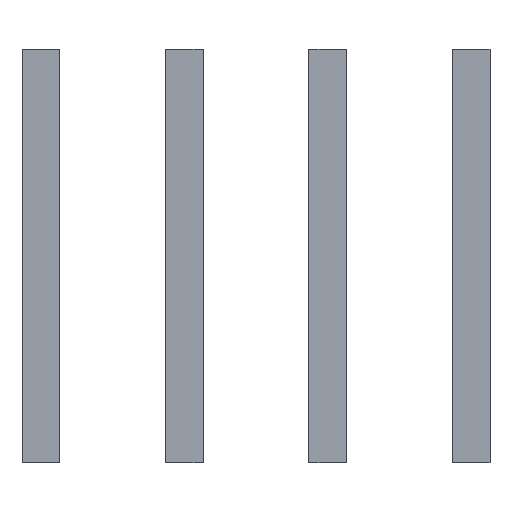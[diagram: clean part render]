
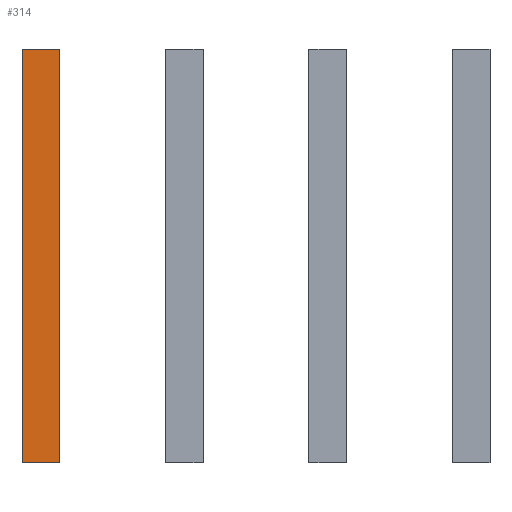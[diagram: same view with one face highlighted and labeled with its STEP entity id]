
A CAD part, front view. The second image highlights one B-rep face of the part: STEP entity #314.
In plain terms, the highlighted planar face has unit normal (0, -1, 0).
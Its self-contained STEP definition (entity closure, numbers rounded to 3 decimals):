
#51 = EDGE_CURVE('',#52,#54,#56,.T.);
#52 = VERTEX_POINT('',#53);
#53 = CARTESIAN_POINT('',(-27.1,15.,-189.5));
#54 = VERTEX_POINT('',#55);
#55 = CARTESIAN_POINT('',(-23.3,15.,-189.5));
#56 = SURFACE_CURVE('',#57,(#61,#73),.PCURVE_S1.);
#57 = LINE('',#58,#59);
#58 = CARTESIAN_POINT('',(-27.1,15.,-189.5));
#59 = VECTOR('',#60,1.);
#60 = DIRECTION('',(1.,0.,0.));
#61 = PCURVE('',#62,#67);
#62 = PLANE('',#63);
#63 = AXIS2_PLACEMENT_3D('',#64,#65,#66);
#64 = CARTESIAN_POINT('',(-27.1,15.,-189.5));
#65 = DIRECTION('',(0.,0.,1.));
#66 = DIRECTION('',(0.,1.,0.));
#67 = DEFINITIONAL_REPRESENTATION('',(#68),#72);
#68 = LINE('',#69,#70);
#69 = CARTESIAN_POINT('',(0.,0.));
#70 = VECTOR('',#71,1.);
#71 = DIRECTION('',(0.,-1.));
#72 = ( GEOMETRIC_REPRESENTATION_CONTEXT(2) 
PARAMETRIC_REPRESENTATION_CONTEXT() REPRESENTATION_CONTEXT('2D SPACE',''
  ) );
#73 = PCURVE('',#74,#79);
#74 = PLANE('',#75);
#75 = AXIS2_PLACEMENT_3D('',#76,#77,#78);
#76 = CARTESIAN_POINT('',(-27.1,15.,-148.));
#77 = DIRECTION('',(-0.,1.,0.));
#78 = DIRECTION('',(0.,0.,-1.));
#79 = DEFINITIONAL_REPRESENTATION('',(#80),#84);
#80 = LINE('',#81,#82);
#81 = CARTESIAN_POINT('',(41.5,0.));
#82 = VECTOR('',#83,1.);
#83 = DIRECTION('',(0.,-1.));
#84 = ( GEOMETRIC_REPRESENTATION_CONTEXT(2) 
PARAMETRIC_REPRESENTATION_CONTEXT() REPRESENTATION_CONTEXT('2D SPACE',''
  ) );
#102 = PLANE('',#103);
#103 = AXIS2_PLACEMENT_3D('',#104,#105,#106);
#104 = CARTESIAN_POINT('',(-23.3,15.85,-168.75));
#105 = DIRECTION('',(1.,0.,0.));
#106 = DIRECTION('',(-0.,0.,1.));
#156 = PLANE('',#157);
#157 = AXIS2_PLACEMENT_3D('',#158,#159,#160);
#158 = CARTESIAN_POINT('',(-27.1,15.85,-168.75));
#159 = DIRECTION('',(1.,0.,0.));
#160 = DIRECTION('',(-0.,0.,1.));
#211 = PLANE('',#212);
#212 = AXIS2_PLACEMENT_3D('',#213,#214,#215);
#213 = CARTESIAN_POINT('',(-27.1,16.7,-148.));
#214 = DIRECTION('',(0.,0.,-1.));
#215 = DIRECTION('',(0.,-1.,0.));
#249 = VERTEX_POINT('',#250);
#250 = CARTESIAN_POINT('',(-23.3,15.,-148.));
#271 = EDGE_CURVE('',#272,#249,#274,.T.);
#272 = VERTEX_POINT('',#273);
#273 = CARTESIAN_POINT('',(-27.1,15.,-148.));
#274 = SURFACE_CURVE('',#275,(#279,#286),.PCURVE_S1.);
#275 = LINE('',#276,#277);
#276 = CARTESIAN_POINT('',(-27.1,15.,-148.));
#277 = VECTOR('',#278,1.);
#278 = DIRECTION('',(1.,0.,0.));
#279 = PCURVE('',#211,#280);
#280 = DEFINITIONAL_REPRESENTATION('',(#281),#285);
#281 = LINE('',#282,#283);
#282 = CARTESIAN_POINT('',(1.7,0.));
#283 = VECTOR('',#284,1.);
#284 = DIRECTION('',(0.,-1.));
#285 = ( GEOMETRIC_REPRESENTATION_CONTEXT(2) 
PARAMETRIC_REPRESENTATION_CONTEXT() REPRESENTATION_CONTEXT('2D SPACE',''
  ) );
#286 = PCURVE('',#74,#287);
#287 = DEFINITIONAL_REPRESENTATION('',(#288),#292);
#288 = LINE('',#289,#290);
#289 = CARTESIAN_POINT('',(0.,0.));
#290 = VECTOR('',#291,1.);
#291 = DIRECTION('',(0.,-1.));
#292 = ( GEOMETRIC_REPRESENTATION_CONTEXT(2) 
PARAMETRIC_REPRESENTATION_CONTEXT() REPRESENTATION_CONTEXT('2D SPACE',''
  ) );
#314 = ADVANCED_FACE('',(#315),#74,.F.);
#315 = FACE_BOUND('',#316,.F.);
#316 = EDGE_LOOP('',(#317,#318,#339,#340));
#317 = ORIENTED_EDGE('',*,*,#271,.T.);
#318 = ORIENTED_EDGE('',*,*,#319,.T.);
#319 = EDGE_CURVE('',#249,#54,#320,.T.);
#320 = SURFACE_CURVE('',#321,(#325,#332),.PCURVE_S1.);
#321 = LINE('',#322,#323);
#322 = CARTESIAN_POINT('',(-23.3,15.,-148.));
#323 = VECTOR('',#324,1.);
#324 = DIRECTION('',(0.,0.,-1.));
#325 = PCURVE('',#74,#326);
#326 = DEFINITIONAL_REPRESENTATION('',(#327),#331);
#327 = LINE('',#328,#329);
#328 = CARTESIAN_POINT('',(0.,-3.8));
#329 = VECTOR('',#330,1.);
#330 = DIRECTION('',(1.,0.));
#331 = ( GEOMETRIC_REPRESENTATION_CONTEXT(2) 
PARAMETRIC_REPRESENTATION_CONTEXT() REPRESENTATION_CONTEXT('2D SPACE',''
  ) );
#332 = PCURVE('',#102,#333);
#333 = DEFINITIONAL_REPRESENTATION('',(#334),#338);
#334 = LINE('',#335,#336);
#335 = CARTESIAN_POINT('',(20.75,0.85));
#336 = VECTOR('',#337,1.);
#337 = DIRECTION('',(-1.,0.));
#338 = ( GEOMETRIC_REPRESENTATION_CONTEXT(2) 
PARAMETRIC_REPRESENTATION_CONTEXT() REPRESENTATION_CONTEXT('2D SPACE',''
  ) );
#339 = ORIENTED_EDGE('',*,*,#51,.F.);
#340 = ORIENTED_EDGE('',*,*,#341,.F.);
#341 = EDGE_CURVE('',#272,#52,#342,.T.);
#342 = SURFACE_CURVE('',#343,(#347,#354),.PCURVE_S1.);
#343 = LINE('',#344,#345);
#344 = CARTESIAN_POINT('',(-27.1,15.,-148.));
#345 = VECTOR('',#346,1.);
#346 = DIRECTION('',(0.,0.,-1.));
#347 = PCURVE('',#74,#348);
#348 = DEFINITIONAL_REPRESENTATION('',(#349),#353);
#349 = LINE('',#350,#351);
#350 = CARTESIAN_POINT('',(0.,0.));
#351 = VECTOR('',#352,1.);
#352 = DIRECTION('',(1.,0.));
#353 = ( GEOMETRIC_REPRESENTATION_CONTEXT(2) 
PARAMETRIC_REPRESENTATION_CONTEXT() REPRESENTATION_CONTEXT('2D SPACE',''
  ) );
#354 = PCURVE('',#156,#355);
#355 = DEFINITIONAL_REPRESENTATION('',(#356),#360);
#356 = LINE('',#357,#358);
#357 = CARTESIAN_POINT('',(20.75,0.85));
#358 = VECTOR('',#359,1.);
#359 = DIRECTION('',(-1.,0.));
#360 = ( GEOMETRIC_REPRESENTATION_CONTEXT(2) 
PARAMETRIC_REPRESENTATION_CONTEXT() REPRESENTATION_CONTEXT('2D SPACE',''
  ) );
